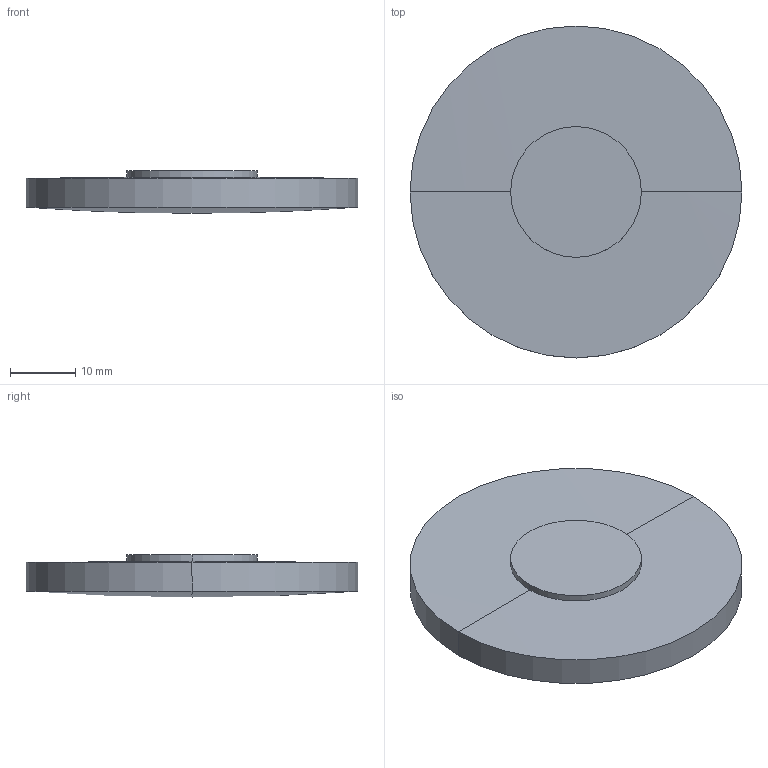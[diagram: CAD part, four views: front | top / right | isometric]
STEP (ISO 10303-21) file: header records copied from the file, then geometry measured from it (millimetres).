
FILE_DESCRIPTION(('STEP AP214'),'1');
FILE_NAME('LLU-51610.STEP','2020-03-09T17:42:17',(' '),(' '),'Spatial InterOp 3D',' ',' ');
FILE_SCHEMA(('AUTOMOTIVE_DESIGN { 1 0 10303 214 1 1 1 1 }'));
Length unit declared in the file: millimetre
Products named in the file (1): 1
Bounding box: 50.8 x 50.8 x 6.5 mm (x, y, z)
Volume: 10372.3 mm3; surface area: 5453.7 mm2
Topology: 2 solids, 2 shells, 10 faces, 20 edges, 10 vertices
Faces by surface type: sphere 4, cylinder 4, plane 2
Entity records: 255 total; most frequent: DIRECTION 52, CARTESIAN_POINT 38, ORIENTED_EDGE 32, AXIS2_PLACEMENT_3D 24, EDGE_CURVE 16, CIRCLE 12, ADVANCED_FACE 10, FACE_OUTER_BOUND 10
